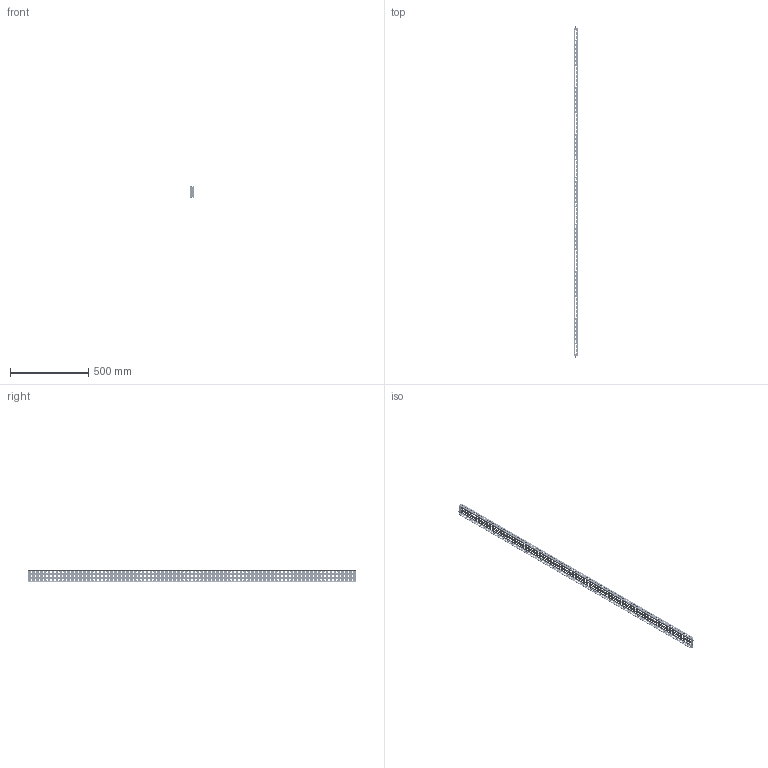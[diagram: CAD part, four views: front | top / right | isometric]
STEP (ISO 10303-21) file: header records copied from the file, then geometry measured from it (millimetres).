
FILE_DESCRIPTION(('Open CASCADE Model'),'2;1');
FILE_NAME('Open CASCADE Shape Model','2025-01-16T16:25:02',('Author'),( 'Open CASCADE'),'Open CASCADE STEP processor 7.8','Open CASCADE 7.8' ,'Unknown');
FILE_SCHEMA(('AUTOMOTIVE_DESIGN { 1 0 10303 214 1 1 1 1 }'));
Products named in the file (1): Solid1
Bounding box: 28.56 x 2120 x 82.12 mm (x, y, z)
Volume: 360393.9 mm3; surface area: 525985.5 mm2
Topology: 13 solids, 13 shells, 8086 faces, 24374 edges, 16304 vertices
Faces by surface type: cylinder 5148, plane 2838, torus 40, cone 20, bspline 20, sphere 20
Full cylindrical faces by diameter (mm): 4.2 x740, 5 x10, 6 x14
Entity records: 286639 total; most frequent: CARTESIAN_POINT 53746, DIRECTION 50450, ORIENTED_EDGE 48708, EDGE_CURVE 24354, AXIS2_PLACEMENT_3D 18893, VERTEX_POINT 16304, LINE 12664, VECTOR 12664
